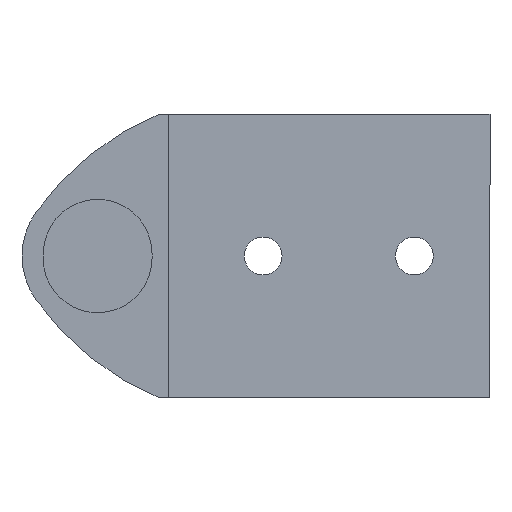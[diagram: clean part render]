
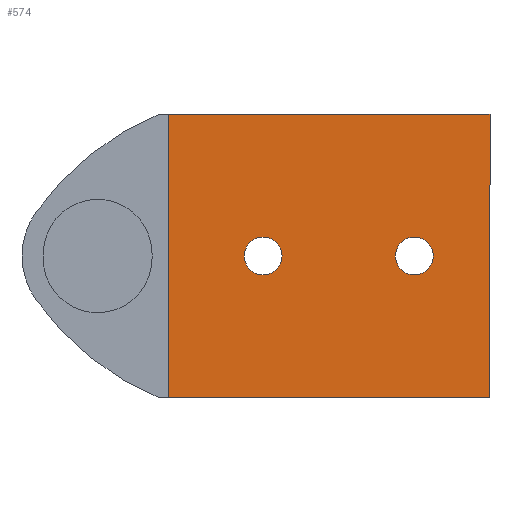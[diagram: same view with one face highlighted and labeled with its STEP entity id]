
A CAD part, front view. The second image highlights one B-rep face of the part: STEP entity #574.
In plain terms, the highlighted planar face has unit normal (0, -1, 0).
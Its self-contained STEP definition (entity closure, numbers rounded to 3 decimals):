
#5 = CIRCLE ( 'NONE', #390, 2. ) ;
#34 = CIRCLE ( 'NONE', #416, 2. ) ;
#44 = VECTOR ( 'NONE', #826, 1000. ) ;
#45 = LINE ( 'NONE', #827, #44 ) ;
#71 = VECTOR ( 'NONE', #900, 1000. ) ;
#76 = LINE ( 'NONE', #903, #71 ) ;
#138 = EDGE_LOOP ( 'NONE', ( #183, #184 ) ) ;
#149 = EDGE_LOOP ( 'NONE', ( #185, #186 ) ) ;
#150 = EDGE_LOOP ( 'NONE', ( #187, #188, #189, #190 ) ) ;
#183 = ORIENTED_EDGE ( 'NONE', *, *, #458, .F. ) ;
#184 = ORIENTED_EDGE ( 'NONE', *, *, #423, .F. ) ;
#185 = ORIENTED_EDGE ( 'NONE', *, *, #384, .F. ) ;
#186 = ORIENTED_EDGE ( 'NONE', *, *, #462, .F. ) ;
#187 = ORIENTED_EDGE ( 'NONE', *, *, #353, .F. ) ;
#188 = ORIENTED_EDGE ( 'NONE', *, *, #377, .F. ) ;
#189 = ORIENTED_EDGE ( 'NONE', *, *, #479, .F. ) ;
#190 = ORIENTED_EDGE ( 'NONE', *, *, #450, .F. ) ;
#353 = EDGE_CURVE ( 'NONE', #596, #586, #76, .T. ) ;
#377 = EDGE_CURVE ( 'NONE', #670, #596, #45, .T. ) ;
#384 = EDGE_CURVE ( 'NONE', #665, #603, #34, .T. ) ;
#390 = AXIS2_PLACEMENT_3D ( 'NONE', #774, #771, #770 ) ;
#402 = AXIS2_PLACEMENT_3D ( 'NONE', #681, #664, #663 ) ;
#416 = AXIS2_PLACEMENT_3D ( 'NONE', #819, #817, #816 ) ;
#423 = EDGE_CURVE ( 'NONE', #1000, #643, #5, .T. ) ;
#435 = AXIS2_PLACEMENT_3D ( 'NONE', #677, #672, #671 ) ;
#450 = EDGE_CURVE ( 'NONE', #586, #997, #534, .T. ) ;
#456 = AXIS2_PLACEMENT_3D ( 'NONE', #590, #588, #587 ) ;
#458 = EDGE_CURVE ( 'NONE', #643, #1000, #545, .T. ) ;
#462 = EDGE_CURVE ( 'NONE', #603, #665, #542, .T. ) ;
#479 = EDGE_CURVE ( 'NONE', #997, #670, #522, .T. ) ;
#487 = VECTOR ( 'NONE', #694, 1000. ) ;
#490 = VECTOR ( 'NONE', #646, 1000. ) ;
#498 = FACE_OUTER_BOUND ( 'NONE', #150, .T. ) ;
#500 = FACE_BOUND ( 'NONE', #138, .T. ) ;
#502 = FACE_BOUND ( 'NONE', #149, .T. ) ;
#522 = LINE ( 'NONE', #647, #490 ) ;
#534 = LINE ( 'NONE', #696, #487 ) ;
#542 = CIRCLE ( 'NONE', #402, 2. ) ;
#545 = CIRCLE ( 'NONE', #435, 2. ) ;
#574 = ADVANCED_FACE ( 'NONE', ( #500, #502, #498 ), #591, .F. ) ;
#586 = VERTEX_POINT ( 'NONE', #809 ) ;
#587 = DIRECTION ( 'NONE',  ( 1., 0., 0. ) ) ;
#588 = DIRECTION ( 'NONE',  ( 0., 1., 0. ) ) ;
#590 = CARTESIAN_POINT ( 'NONE',  ( -10., 0., 15. ) ) ;
#591 = PLANE ( 'NONE',  #456 ) ;
#596 = VERTEX_POINT ( 'NONE', #734 ) ;
#603 = VERTEX_POINT ( 'NONE', #833 ) ;
#643 = VERTEX_POINT ( 'NONE', #839 ) ;
#646 = DIRECTION ( 'NONE',  ( -1., 0., 0. ) ) ;
#647 = CARTESIAN_POINT ( 'NONE',  ( -10., 0., -15. ) ) ;
#663 = DIRECTION ( 'NONE',  ( 1., 0., 0. ) ) ;
#664 = DIRECTION ( 'NONE',  ( 0., -1., 0. ) ) ;
#665 = VERTEX_POINT ( 'NONE', #751 ) ;
#670 = VERTEX_POINT ( 'NONE', #843 ) ;
#671 = DIRECTION ( 'NONE',  ( 1., 0., 0. ) ) ;
#672 = DIRECTION ( 'NONE',  ( 0., -1., 0. ) ) ;
#677 = CARTESIAN_POINT ( 'NONE',  ( 0., 0., 0. ) ) ;
#681 = CARTESIAN_POINT ( 'NONE',  ( 16., 0., 0. ) ) ;
#694 = DIRECTION ( 'NONE',  ( 0., 0., -1. ) ) ;
#696 = CARTESIAN_POINT ( 'NONE',  ( 24., 0., -15. ) ) ;
#734 = CARTESIAN_POINT ( 'NONE',  ( -10., 0., 15. ) ) ;
#751 = CARTESIAN_POINT ( 'NONE',  ( 18., 0., 0. ) ) ;
#760 = CARTESIAN_POINT ( 'NONE',  ( 24., 0., -15. ) ) ;
#761 = CARTESIAN_POINT ( 'NONE',  ( -2., 0., 0. ) ) ;
#770 = DIRECTION ( 'NONE',  ( 1., 0., 0. ) ) ;
#771 = DIRECTION ( 'NONE',  ( 0., -1., 0. ) ) ;
#774 = CARTESIAN_POINT ( 'NONE',  ( 0., 0., 0. ) ) ;
#809 = CARTESIAN_POINT ( 'NONE',  ( 24., 0., 15. ) ) ;
#816 = DIRECTION ( 'NONE',  ( 1., 0., 0. ) ) ;
#817 = DIRECTION ( 'NONE',  ( 0., -1., 0. ) ) ;
#819 = CARTESIAN_POINT ( 'NONE',  ( 16., 0., 0. ) ) ;
#826 = DIRECTION ( 'NONE',  ( 0., 0., 1. ) ) ;
#827 = CARTESIAN_POINT ( 'NONE',  ( -10., 0., 15. ) ) ;
#833 = CARTESIAN_POINT ( 'NONE',  ( 14., 0., 0. ) ) ;
#839 = CARTESIAN_POINT ( 'NONE',  ( 2., 0., 0. ) ) ;
#843 = CARTESIAN_POINT ( 'NONE',  ( -10., 0., -15. ) ) ;
#900 = DIRECTION ( 'NONE',  ( 1., 0., 0. ) ) ;
#903 = CARTESIAN_POINT ( 'NONE',  ( 24., 0., 15. ) ) ;
#997 = VERTEX_POINT ( 'NONE', #760 ) ;
#1000 = VERTEX_POINT ( 'NONE', #761 ) ;
